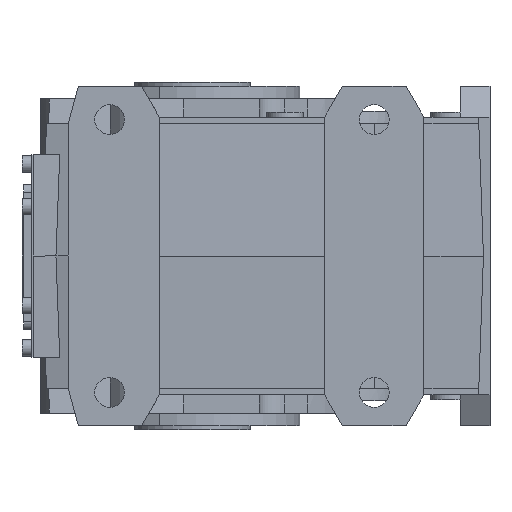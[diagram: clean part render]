
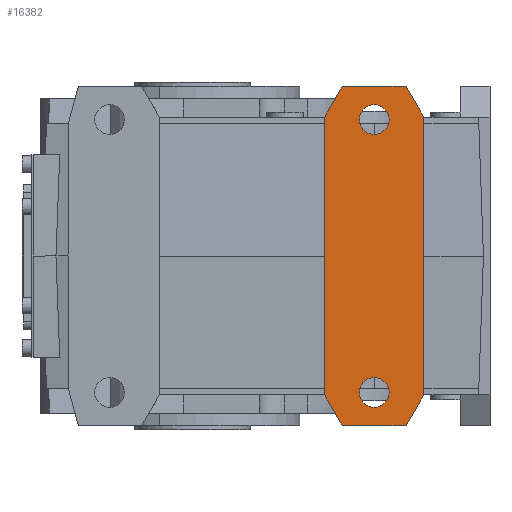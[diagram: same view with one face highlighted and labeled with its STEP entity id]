
A CAD part, left-side view. The second image highlights one B-rep face of the part: STEP entity #16382.
In plain terms, the highlighted planar face has unit normal (-1, 0, 0) as drawn and (1, 0, 0) by its records, which use the part's own axes.
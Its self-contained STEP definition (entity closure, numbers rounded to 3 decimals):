
#532=LINE('',#21876,#1730);
#542=LINE('',#21897,#1740);
#982=LINE('',#23023,#2180);
#985=LINE('',#23028,#2183);
#987=LINE('',#23032,#2185);
#989=LINE('',#23035,#2187);
#992=LINE('',#23040,#2190);
#994=LINE('',#23044,#2192);
#1730=VECTOR('',#18341,1000.);
#1740=VECTOR('',#18353,1000.);
#2180=VECTOR('',#19397,1000.);
#2183=VECTOR('',#19402,1000.);
#2185=VECTOR('',#19406,1000.);
#2187=VECTOR('',#19410,1000.);
#2190=VECTOR('',#19415,1000.);
#2192=VECTOR('',#19419,1000.);
#4217=ORIENTED_EDGE('',*,*,#6836,.F.);
#4218=ORIENTED_EDGE('',*,*,#6837,.F.);
#4219=ORIENTED_EDGE('',*,*,#6822,.T.);
#4220=ORIENTED_EDGE('',*,*,#6825,.T.);
#4221=ORIENTED_EDGE('',*,*,#6827,.T.);
#4222=ORIENTED_EDGE('',*,*,#6273,.T.);
#4223=ORIENTED_EDGE('',*,*,#6829,.T.);
#4224=ORIENTED_EDGE('',*,*,#6832,.T.);
#4225=ORIENTED_EDGE('',*,*,#6834,.T.);
#4226=ORIENTED_EDGE('',*,*,#6283,.T.);
#6273=EDGE_CURVE('',#7860,#7859,#532,.T.);
#6283=EDGE_CURVE('',#7870,#7869,#542,.T.);
#6822=EDGE_CURVE('',#7869,#8209,#982,.T.);
#6825=EDGE_CURVE('',#8209,#8210,#985,.T.);
#6827=EDGE_CURVE('',#8210,#7860,#987,.T.);
#6829=EDGE_CURVE('',#7859,#8211,#989,.T.);
#6832=EDGE_CURVE('',#8211,#8212,#992,.T.);
#6834=EDGE_CURVE('',#8212,#7870,#994,.T.);
#6836=EDGE_CURVE('',#8213,#8213,#8879,.T.);
#6837=EDGE_CURVE('',#8214,#8214,#8880,.T.);
#7859=VERTEX_POINT('',#21875);
#7860=VERTEX_POINT('',#21877);
#7869=VERTEX_POINT('',#21896);
#7870=VERTEX_POINT('',#21898);
#8209=VERTEX_POINT('',#23024);
#8210=VERTEX_POINT('',#23029);
#8211=VERTEX_POINT('',#23036);
#8212=VERTEX_POINT('',#23041);
#8213=VERTEX_POINT('',#23048);
#8214=VERTEX_POINT('',#23050);
#8879=CIRCLE('',#17266,9.);
#8880=CIRCLE('',#17267,9.);
#9404=EDGE_LOOP('',(#4217));
#9405=EDGE_LOOP('',(#4218));
#9406=EDGE_LOOP('',(#4219,#4220,#4221,#4222,#4223,#4224,#4225,#4226));
#10305=FACE_BOUND('',#9404,.T.);
#10306=FACE_BOUND('',#9405,.T.);
#10307=FACE_BOUND('',#9406,.T.);
#11103=PLANE('',#17265);
#16382=ADVANCED_FACE('',(#10305,#10306,#10307),#11103,.T.);
#17265=AXIS2_PLACEMENT_3D('',#23046,#19421,#19422);
#17266=AXIS2_PLACEMENT_3D('',#23047,#19423,#19424);
#17267=AXIS2_PLACEMENT_3D('',#23049,#19425,#19426);
#18341=DIRECTION('',(0.,0.,-1.));
#18353=DIRECTION('',(0.,0.,1.));
#19397=DIRECTION('',(0.,-0.5,0.866));
#19402=DIRECTION('',(0.,-1.,0.));
#19406=DIRECTION('',(0.,-0.5,-0.866));
#19410=DIRECTION('',(0.,0.5,-0.866));
#19415=DIRECTION('',(0.,1.,0.));
#19419=DIRECTION('',(0.,0.5,0.866));
#19421=DIRECTION('',(1.,0.,0.));
#19422=DIRECTION('',(0.,0.,-1.));
#19423=DIRECTION('',(1.,0.,0.));
#19424=DIRECTION('',(0.,0.,-1.));
#19425=DIRECTION('',(1.,0.,0.));
#19426=DIRECTION('',(0.,0.,-1.));
#21875=CARTESIAN_POINT('',(325.5,-115.,-84.));
#21876=CARTESIAN_POINT('',(325.5,-115.,84.));
#21877=CARTESIAN_POINT('',(325.5,-115.,84.));
#21896=CARTESIAN_POINT('',(325.5,-55.,84.));
#21897=CARTESIAN_POINT('',(325.5,-55.,-84.));
#21898=CARTESIAN_POINT('',(325.5,-55.,-84.));
#23023=CARTESIAN_POINT('',(325.5,-55.,84.));
#23024=CARTESIAN_POINT('',(325.5,-65.681,102.5));
#23028=CARTESIAN_POINT('',(325.5,-65.681,102.5));
#23029=CARTESIAN_POINT('',(325.5,-104.319,102.5));
#23032=CARTESIAN_POINT('',(325.5,-104.319,102.5));
#23035=CARTESIAN_POINT('',(325.5,-115.,-84.));
#23036=CARTESIAN_POINT('',(325.5,-104.319,-102.5));
#23040=CARTESIAN_POINT('',(325.5,-104.319,-102.5));
#23041=CARTESIAN_POINT('',(325.5,-65.681,-102.5));
#23044=CARTESIAN_POINT('',(325.5,-65.681,-102.5));
#23046=CARTESIAN_POINT('',(325.5,0.,0.));
#23047=CARTESIAN_POINT('',(325.5,-85.,82.5));
#23048=CARTESIAN_POINT('',(325.5,-85.,73.5));
#23049=CARTESIAN_POINT('',(325.5,-85.,-82.5));
#23050=CARTESIAN_POINT('',(325.5,-85.,-91.5));
